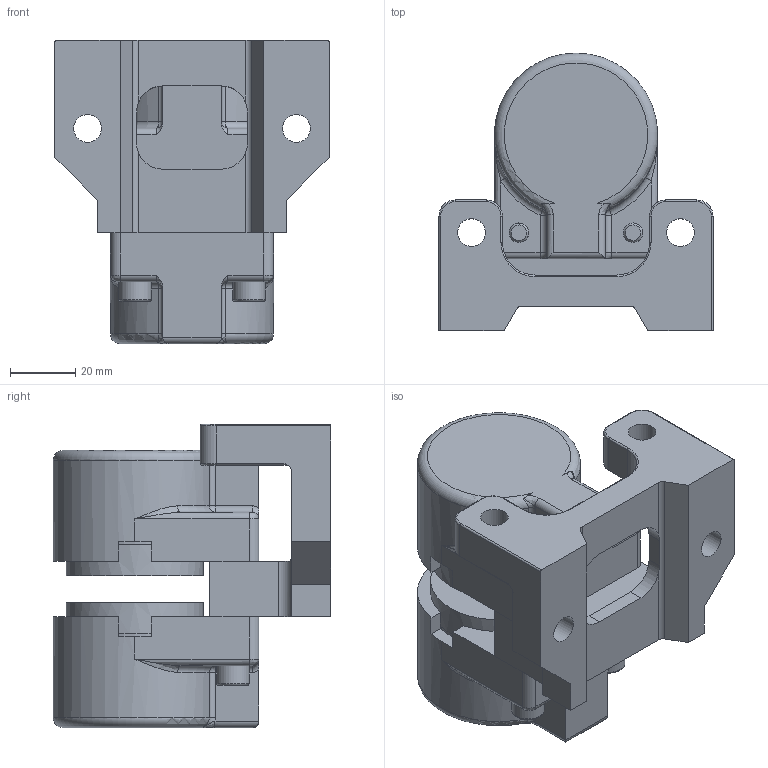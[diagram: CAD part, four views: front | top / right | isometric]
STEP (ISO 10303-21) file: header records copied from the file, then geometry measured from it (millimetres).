
FILE_DESCRIPTION(/* description */ ('','CAx-IF Rec.Pracs.---Representation and Presentation of Product Manufacturing Information (PMI)---4.0---2014-10-13'),/* implementation_level */ '2;1');
FILE_NAME(/* name */ 'X:\INVENTOR\DISEGNI\19_Pinze\STEP x Sito\PNEUM-POSITIVE\19_16_M045_02 PPV045_08.stp',/* time_stamp */ '2018-02-16T16:44:54+01:00',/* author */ ('stefano'),/* organization */ (''),/* preprocessor_version */ 'ST-DEVELOPER v17',/* originating_system */ 'Autodesk Inventor 2018',/* authorisation */ '');
FILE_SCHEMA (('AP242_MANAGED_MODEL_BASED_3D_ENGINEERING_MIM_LF { 1 0 10303 442 1 1 4 }'));
Length unit declared in the file: millimetre
Products named in the file (1): 19_16_M045_02 PPV045_08_Substitute_3
Bounding box: 84 x 85 x 93 mm (x, y, z)
Volume: 180601.9 mm3; surface area: 57484 mm2
Topology: 2 solids, 2 shells, 270 faces, 730 edges, 466 vertices
Faces by surface type: plane 111, cylinder 99, torus 31, bspline 16, cone 9, sphere 4
Full cylindrical faces by diameter (mm): 4 x2, 4.1 x2, 5 x3, 6 x2, 6.1 x2, 8.5 x4, 8.566 x1, 10 x5, 11.5 x2, 15.5 x2, 28 x2, 40 x2, 42 x6, 44.5 x2
Entity records: 9556 total; most frequent: CARTESIAN_POINT 2409, DIRECTION 1474, ORIENTED_EDGE 1438, EDGE_CURVE 719, AXIS2_PLACEMENT_3D 582, VERTEX_POINT 466, CIRCLE 319, LINE 310
